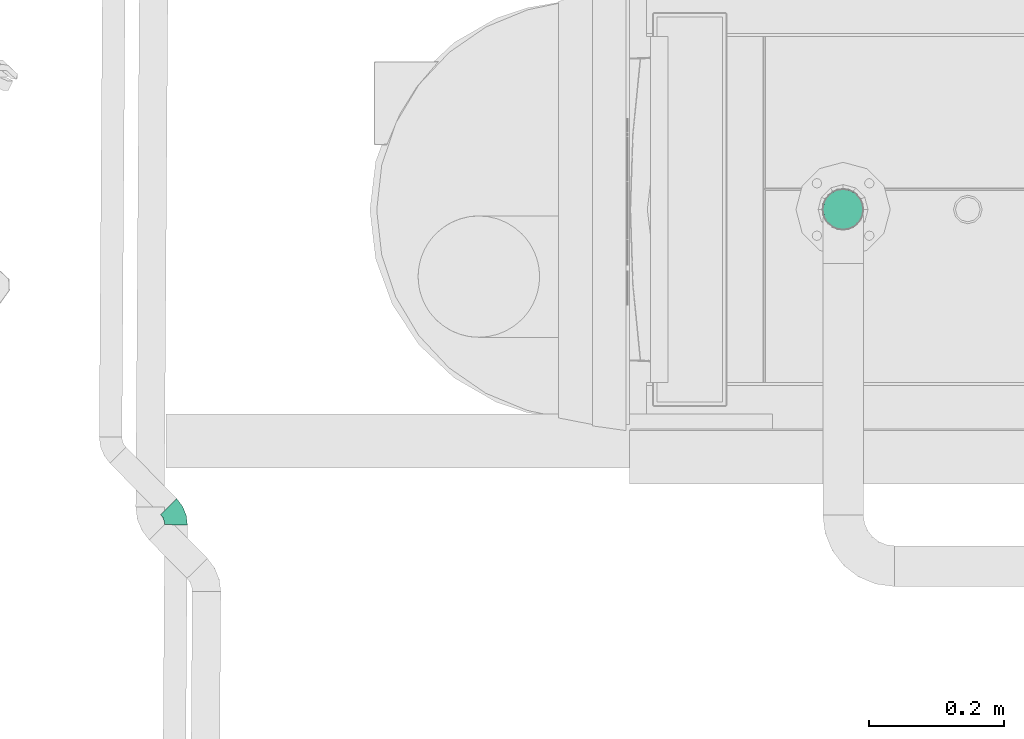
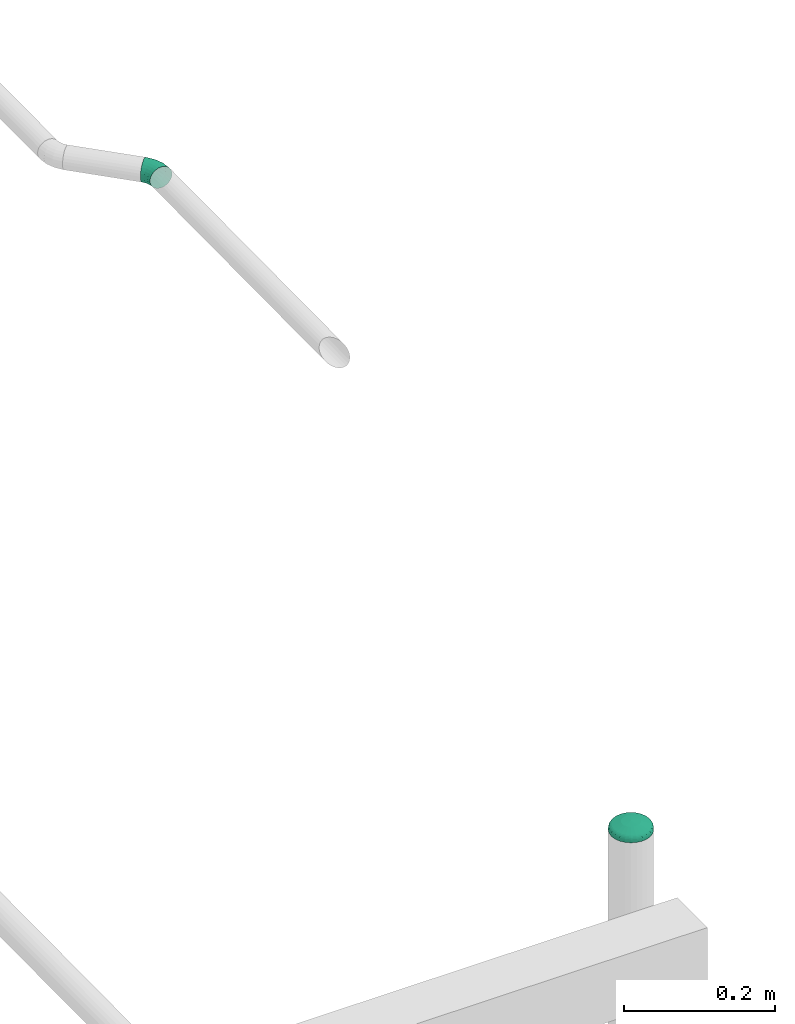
# One storey, part 353 of 374: 1 flow fitting, 1 flow segment.
"""IFC2X3 building model written with IfcOpenShell, lengths in metres."""

from ifc_helpers import new_model, si_unit, direction, origin, place, context, subcontext, project, spatial, open_shell, surface_model, source, transform, mapped, element, save


model = new_model("IFC2X3")

# Units and contexts
model_context = context("Model", 3, precision=1e-05, world=origin(), true_north=direction((-0.4480736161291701, 0.8939966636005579)))
body_context = subcontext(model_context, "Body", "Model", "MODEL_VIEW")
ifc_project = project(units=[si_unit("LENGTHUNIT", "METRE"), si_unit("AREAUNIT", "SQUARE_METRE"), si_unit("VOLUMEUNIT", "CUBIC_METRE"), si_unit("PLANEANGLEUNIT", "RADIAN"), si_unit("THERMODYNAMICTEMPERATUREUNIT", "KELVIN"), si_unit("MASSUNIT", "GRAM", prefix="KILO"), si_unit("TIMEUNIT", "SECOND")], contexts=[model_context])

# Site, building, storey
site_placement = place(None, origin())
site = spatial("IfcSite", under=ifc_project, at=site_placement, Name="Site 1", CompositionType="ELEMENT")
building_placement = place(site_placement, origin())
building = spatial("IfcBuilding", under=site, at=building_placement, Name="Undefined", CompositionType="ELEMENT")
storey_placement = place(building_placement, origin())
storey = spatial("IfcBuildingStorey", under=building, at=storey_placement, Name="Rez de chauss\x8ee", CompositionType="ELEMENT", Elevation=0.0)

# Flow fitting
shared_shape_1 = source(origin(), body_context, "Body", "SurfaceModel", [
    surface_model("IfcFaceBasedSurfaceModel", [(0.01346194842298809, 0.0, 0.0), (0.00045317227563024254, 0.00346349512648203, -4.4408921e-16), (0.0, 0.0, 0.0), (0.0004531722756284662, -0.0034620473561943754, -0.00010013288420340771), (0.0017818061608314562, -0.006686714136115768, -0.00029357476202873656), (0.0038953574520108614, -0.009454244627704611, -0.0005671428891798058), (0.0066497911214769, -0.011576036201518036, -0.0009021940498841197), (0.00985739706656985, -0.012907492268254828, -0.0012758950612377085), (0.013299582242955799, -0.013357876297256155, -0.001662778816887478), (0.016741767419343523, -0.012896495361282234, -0.002036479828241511), (0.01994937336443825, -0.01155479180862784, -0.0023715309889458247), (0.02270380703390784, -0.009424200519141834, -0.00264509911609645), (0.02481735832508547, -0.0066499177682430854, -0.0028385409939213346), (0.026145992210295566, -0.0034210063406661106, -0.002938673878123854), (0.02659916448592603, 4.248878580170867e-05, -0.002938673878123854), (0.026145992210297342, 0.0035045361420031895, -0.0028385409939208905), (0.024817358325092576, 0.006729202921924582, -0.002645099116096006), (0.022703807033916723, 0.00949673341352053, -0.0023715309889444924), (0.019949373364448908, 0.011618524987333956, -0.0020364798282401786), (0.01674176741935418, 0.012949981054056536, -0.0016627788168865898), (0.01329958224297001, 0.013400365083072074, -0.0012758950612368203), (0.009857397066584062, 0.012938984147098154, -0.0009021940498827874), (0.006649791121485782, 0.011597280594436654, -0.0005671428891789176), (0.003895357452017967, 0.009466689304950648, -0.0002935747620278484), (0.0017818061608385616, 0.006692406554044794, -0.00010013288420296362), (-0.012252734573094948, 0.006802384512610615, -0.0029386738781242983), (-0.013137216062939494, 4.2488785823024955e-05, -0.0029386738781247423), (-0.012252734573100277, -0.006714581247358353, -0.003134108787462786), (-0.009659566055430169, -0.013008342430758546, -0.0035116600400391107), (-0.0055344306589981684, -0.01840988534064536, -0.004045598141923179), (-0.00015844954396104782, -0.02255110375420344, -0.004699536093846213), (0.006102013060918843, -0.02514978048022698, -0.005428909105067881), (0.01282031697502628, -0.026028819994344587, -0.006184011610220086), (0.01953862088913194, -0.02512831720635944, -0.00691338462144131), (0.025799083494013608, -0.02250963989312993, -0.0075673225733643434), (0.031175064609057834, -0.018351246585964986, -0.008101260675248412), (0.03530020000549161, -0.012936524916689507, -0.008478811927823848), (0.03789336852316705, -0.006634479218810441, -0.008674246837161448), (0.038777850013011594, 0.00012541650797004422, -0.008674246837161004), (0.037893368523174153, 0.006882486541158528, -0.00847881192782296), (0.03530020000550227, 0.013176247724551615, -0.008101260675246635), (0.03117506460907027, 0.01857779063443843, -0.007567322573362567), (0.025799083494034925, 0.022719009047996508, -0.006913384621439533), (0.019538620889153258, 0.025317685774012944, -0.0061840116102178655), (0.012820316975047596, 0.026196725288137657, -0.005428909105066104), (0.006102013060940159, 0.02529622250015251, -0.004699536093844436), (-0.0001584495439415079, 0.022677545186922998, -0.004045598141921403), (-0.005534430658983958, 0.01851915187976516, -0.0035116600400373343), (-0.00965956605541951, 0.013104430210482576, -0.003134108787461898), (-0.013961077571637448, 0.0072437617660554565, -0.0038380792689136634), (-0.014901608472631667, 5.5492829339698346e-05, -0.0038380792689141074), (-0.013961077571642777, -0.007129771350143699, -0.004045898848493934), (-0.011203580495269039, -0.013822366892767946, -0.004447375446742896), (-0.006817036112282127, -0.019566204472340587, -0.005015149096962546), (-0.0011003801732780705, -0.023969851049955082, -0.005710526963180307), (0.005556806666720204, -0.02673320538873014, -0.006486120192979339), (0.012700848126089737, -0.027667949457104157, -0.007289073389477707), (0.01984488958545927, -0.026710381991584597, -0.008064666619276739), (0.02650207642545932, -0.023925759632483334, -0.008760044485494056), (0.03221873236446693, -0.019503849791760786, -0.009327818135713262), (0.036605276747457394, -0.01374599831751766, -0.00972929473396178), (0.03936277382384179, -0.007044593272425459, -0.009937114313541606), (0.04030330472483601, 0.0001436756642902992, -0.009937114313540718), (0.03936277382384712, 0.007328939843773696, -0.009729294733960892), (0.036605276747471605, 0.014021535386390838, -0.00932781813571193), (0.03221873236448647, 0.019765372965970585, -0.00876004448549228), (0.026502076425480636, 0.024169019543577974, -0.008064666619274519), (0.01984488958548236, 0.026932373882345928, -0.007289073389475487), (0.01270084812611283, 0.02786711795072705, -0.006486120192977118), (0.005556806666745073, 0.026909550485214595, -0.005710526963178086), (-0.0011003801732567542, 0.024124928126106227, -0.005015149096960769), (-0.006817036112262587, 0.019703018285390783, -0.004447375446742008), (-0.011203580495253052, 0.013945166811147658, -0.004045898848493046), (-0.015361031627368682, 0.007596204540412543, -0.0051938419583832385), (-0.016345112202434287, 7.509511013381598e-05, -0.0051938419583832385), (-0.015361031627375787, -0.007442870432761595, -0.005411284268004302), (-0.012475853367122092, -0.014445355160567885, -0.005831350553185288), (-0.007886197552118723, -0.020455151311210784, -0.006425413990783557), (-0.001904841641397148, -0.02506270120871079, -0.007152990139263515), (0.005060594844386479, -0.027954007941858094, -0.007964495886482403), (0.012535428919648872, -0.02893203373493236, -0.008804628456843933), (0.02001026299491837, -0.02793012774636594, -0.00961613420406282), (0.02697569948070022, -0.02501656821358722, -0.010343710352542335), (0.03295705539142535, -0.020389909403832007, -0.01093777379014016), (0.03754671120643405, -0.014365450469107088, -0.011357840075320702), (0.040431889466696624, -0.0073537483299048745, -0.011575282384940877), (0.04141597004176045, 0.00016736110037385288, -0.011575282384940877), (0.04043188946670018, 0.0076853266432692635, -0.011357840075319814), (0.03754671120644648, 0.014687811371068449, -0.010937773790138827), (0.03295705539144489, 0.020697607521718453, -0.010343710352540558), (0.026975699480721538, 0.02530515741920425, -0.0096161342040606), (0.020010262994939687, 0.028196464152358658, -0.008804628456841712), (0.012535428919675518, 0.02917448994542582, -0.007964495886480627), (0.005060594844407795, 0.02817258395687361, -0.007152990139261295), (-0.0019048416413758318, 0.025259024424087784, -0.006425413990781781), (-0.00788619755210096, 0.020632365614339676, -0.005831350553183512), (-0.01247585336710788, 0.014607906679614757, -0.0054112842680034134), (-0.016341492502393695, 0.007831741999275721, -0.0068983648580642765), (-0.017353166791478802, 9.973993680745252e-05, -0.0068983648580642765), (-0.0163414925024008, -0.007629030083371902, -0.007121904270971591), (-0.013375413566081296, -0.01482786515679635, -0.007553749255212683), (-0.008657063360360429, -0.021006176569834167, -0.008164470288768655), (-0.002507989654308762, -0.025742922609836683, -0.008912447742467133), (0.0046527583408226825, -0.028715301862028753, -0.009746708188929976), (0.01233718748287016, -0.029720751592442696, -0.010610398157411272), (0.02002161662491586, -0.028690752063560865, -0.01144465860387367), (0.027182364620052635, -0.025695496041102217, -0.012192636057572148), (0.03333143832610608, -0.020939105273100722, -0.012803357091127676), (0.038049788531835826, -0.014745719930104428, -0.013235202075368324), (0.041015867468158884, -0.007537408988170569, -0.01345874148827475), (0.04202754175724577, 0.00019459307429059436, -0.013458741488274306), (0.04101586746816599, 0.007923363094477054, -0.013235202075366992), (0.038049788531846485, 0.015122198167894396, -0.012803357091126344), (0.03333143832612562, 0.021300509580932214, -0.012192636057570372), (0.02718236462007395, 0.02603725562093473, -0.01144465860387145), (0.020021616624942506, 0.0290096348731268, -0.010610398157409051), (0.012337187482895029, 0.030015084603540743, -0.009746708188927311), (0.004652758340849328, 0.02898508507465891, -0.008912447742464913), (-0.002507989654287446, 0.025989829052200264, -0.008164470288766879), (-0.008657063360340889, 0.021233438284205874, -0.0075537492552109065), (-0.013375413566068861, 0.015040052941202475, -0.0071219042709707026), (-0.016824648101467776, 0.007931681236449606, -0.008816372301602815), (-0.01784577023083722, 0.0001274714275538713, -0.008816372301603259), (-0.016824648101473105, -0.007673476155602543, -0.009041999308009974), (-0.01383086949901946, -0.014939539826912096, -0.009477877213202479), (-0.009068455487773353, -0.02117554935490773, -0.010094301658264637), (-0.0028619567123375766, -0.02595653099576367, -0.010849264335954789), (0.004365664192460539, -0.02895666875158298, -0.011691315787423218), (0.01212185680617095, -0.029971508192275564, -0.012563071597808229), (0.019878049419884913, -0.028931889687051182, -0.013405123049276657), (0.027105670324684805, -0.025908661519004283, -0.014160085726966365), (0.033312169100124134, -0.021107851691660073, -0.014776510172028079), (0.03807458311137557, -0.01485662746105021, -0.01521238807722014), (0.0410683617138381, -0.007580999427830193, -0.015438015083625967), (0.042089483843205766, 0.00022321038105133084, -0.015438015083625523), (0.0410683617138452, 0.008024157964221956, -0.015212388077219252), (0.03807458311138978, 0.015290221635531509, -0.014776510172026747), (0.0333121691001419, 0.021526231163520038, -0.014160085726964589), (0.02710567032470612, 0.026307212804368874, -0.013405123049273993), (0.019878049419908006, 0.029307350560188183, -0.012563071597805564), (0.012121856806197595, 0.030322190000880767, -0.011691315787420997), (0.0043656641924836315, 0.02928257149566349, -0.010849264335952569), (-0.002861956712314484, 0.026259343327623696, -0.01009430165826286), (-0.009068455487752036, 0.021458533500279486, -0.009477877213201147), (-0.013830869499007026, 0.015207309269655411, -0.009041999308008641), (-0.017209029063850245, 0.007981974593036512, -0.012294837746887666), (-0.01823015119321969, 0.000177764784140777, -0.012294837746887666), (-0.017209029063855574, -0.0076231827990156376, -0.012520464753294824), (-0.01421525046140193, -0.01488924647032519, -0.01295634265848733), (-0.009452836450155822, -0.021125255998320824, -0.013572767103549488), (-0.0032463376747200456, -0.025906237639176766, -0.01432772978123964), (0.00398128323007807, -0.028906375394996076, -0.015169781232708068), (0.01173747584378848, -0.02992121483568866, -0.01604153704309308), (0.019493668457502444, -0.028881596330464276, -0.016883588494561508), (0.026721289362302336, -0.025858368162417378, -0.017638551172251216), (0.032927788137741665, -0.021057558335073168, -0.01825497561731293), (0.0376902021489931, -0.014806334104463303, -0.018690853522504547), (0.04068398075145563, -0.007530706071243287, -0.018916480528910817), (0.0417051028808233, 0.00027350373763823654, -0.018916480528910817), (0.040683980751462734, 0.008074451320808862, -0.01869085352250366), (0.03769020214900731, 0.015340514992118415, -0.018254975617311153), (0.03292778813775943, 0.021576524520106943, -0.017638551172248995), (0.026721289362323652, 0.02635750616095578, -0.016883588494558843), (0.019493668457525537, 0.02935764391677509, -0.016041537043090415), (0.011737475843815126, 0.030372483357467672, -0.015169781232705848), (0.0039812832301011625, 0.029332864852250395, -0.014327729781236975), (-0.003246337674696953, 0.026309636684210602, -0.013572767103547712), (-0.009452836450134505, 0.021508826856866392, -0.012956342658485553), (-0.014215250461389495, 0.015257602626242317, -0.012520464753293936)], [open_shell([[[0, 1, 2]], [[0, 2, 3]], [[0, 3, 4]], [[0, 4, 5]], [[0, 5, 6]], [[0, 6, 7]], [[0, 7, 8]], [[0, 8, 9]], [[0, 9, 10]], [[0, 10, 11]], [[0, 11, 12]], [[0, 12, 13]], [[0, 13, 14]], [[0, 14, 15]], [[0, 15, 16]], [[0, 16, 17]], [[0, 17, 18]], [[0, 18, 19]], [[0, 19, 20]], [[0, 20, 21]], [[0, 21, 22]], [[0, 22, 23]], [[0, 23, 24]], [[0, 24, 1]], [[1, 25, 26, 2]], [[2, 26, 27, 3]], [[3, 27, 28, 4]], [[4, 28, 29, 5]], [[5, 29, 30, 6]], [[6, 30, 31, 7]], [[7, 31, 32, 8]], [[8, 32, 33, 9]], [[9, 33, 34, 10]], [[10, 34, 35, 11]], [[11, 35, 36, 12]], [[12, 36, 37, 13]], [[13, 37, 38, 14]], [[14, 38, 39, 15]], [[15, 39, 40, 16]], [[16, 40, 41, 17]], [[17, 41, 42, 18]], [[18, 42, 43, 19]], [[19, 43, 44, 20]], [[20, 44, 45, 21]], [[21, 45, 46, 22]], [[22, 46, 47, 23]], [[23, 47, 48, 24]], [[24, 48, 25, 1]], [[25, 49, 50, 26]], [[26, 50, 51, 27]], [[27, 51, 52, 28]], [[28, 52, 53, 29]], [[29, 53, 54, 30]], [[30, 54, 55, 31]], [[31, 55, 56, 32]], [[32, 56, 57, 33]], [[33, 57, 58, 34]], [[34, 58, 59, 35]], [[35, 59, 60, 36]], [[36, 60, 61, 37]], [[37, 61, 62, 38]], [[38, 62, 63, 39]], [[39, 63, 64, 40]], [[40, 64, 65, 41]], [[41, 65, 66, 42]], [[42, 66, 67, 43]], [[43, 67, 68, 44]], [[44, 68, 69, 45]], [[45, 69, 70, 46]], [[46, 70, 71, 47]], [[47, 71, 72, 48]], [[48, 72, 49, 25]], [[49, 73, 74, 50]], [[50, 74, 75, 51]], [[51, 75, 76, 52]], [[52, 76, 77, 53]], [[53, 77, 78, 54]], [[54, 78, 79, 55]], [[55, 79, 80, 56]], [[56, 80, 81, 57]], [[57, 81, 82, 58]], [[58, 82, 83, 59]], [[59, 83, 84, 60]], [[60, 84, 85, 61]], [[61, 85, 86, 62]], [[62, 86, 87, 63]], [[63, 87, 88, 64]], [[64, 88, 89, 65]], [[65, 89, 90, 66]], [[66, 90, 91, 67]], [[67, 91, 92, 68]], [[68, 92, 93, 69]], [[69, 93, 94, 70]], [[70, 94, 95, 71]], [[71, 95, 96, 72]], [[72, 96, 73, 49]], [[73, 97, 98, 74]], [[74, 98, 99, 75]], [[75, 99, 100, 76]], [[76, 100, 101, 77]], [[77, 101, 102, 78]], [[78, 102, 103, 79]], [[79, 103, 104, 80]], [[80, 104, 105, 81]], [[81, 105, 106, 82]], [[82, 106, 107, 83]], [[83, 107, 108, 84]], [[84, 108, 109, 85]], [[85, 109, 110, 86]], [[86, 110, 111, 87]], [[87, 111, 112, 88]], [[88, 112, 113, 89]], [[89, 113, 114, 90]], [[90, 114, 115, 91]], [[91, 115, 116, 92]], [[92, 116, 117, 93]], [[93, 117, 118, 94]], [[94, 118, 119, 95]], [[95, 119, 120, 96]], [[96, 120, 97, 73]], [[97, 121, 122, 98]], [[98, 122, 123, 99]], [[99, 123, 124, 100]], [[100, 124, 125, 101]], [[101, 125, 126, 102]], [[102, 126, 127, 103]], [[103, 127, 128, 104]], [[104, 128, 129, 105]], [[105, 129, 130, 106]], [[106, 130, 131, 107]], [[107, 131, 132, 108]], [[108, 132, 133, 109]], [[109, 133, 134, 110]], [[110, 134, 135, 111]], [[111, 135, 136, 112]], [[112, 136, 137, 113]], [[113, 137, 138, 114]], [[114, 138, 139, 115]], [[115, 139, 140, 116]], [[116, 140, 141, 117]], [[117, 141, 142, 118]], [[118, 142, 143, 119]], [[119, 143, 144, 120]], [[120, 144, 121, 97]], [[121, 145, 146, 122]], [[122, 146, 147, 123]], [[123, 147, 148, 124]], [[124, 148, 149, 125]], [[125, 149, 150, 126]], [[126, 150, 151, 127]], [[127, 151, 152, 128]], [[128, 152, 153, 129]], [[129, 153, 154, 130]], [[130, 154, 155, 131]], [[131, 155, 156, 132]], [[132, 156, 157, 133]], [[133, 157, 158, 134]], [[134, 158, 159, 135]], [[135, 159, 160, 136]], [[136, 160, 161, 137]], [[137, 161, 162, 138]], [[138, 162, 163, 139]], [[139, 163, 164, 140]], [[140, 164, 165, 141]], [[141, 165, 166, 142]], [[142, 166, 167, 143]], [[143, 167, 168, 144]], [[144, 168, 145, 121]]])]),
])
flow_fitting_placement = place(storey_placement, origin())
element("IfcFlowFitting", 1, at=flow_fitting_placement, inside=storey, Name="Fond/couvercle", ObjectType="Fond/couvercle", context=body_context, shape_type="MappedRepresentation", body=[
    mapped(shared_shape_1, transform((53.91363637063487, 13.069137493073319, 2.402223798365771), x_axis=(0.2572534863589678, -0.9600830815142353, 0.10982313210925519), y_axis=(0.966235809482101, 0.25725838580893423, -0.014369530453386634), z_axis=(-0.014456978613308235, 0.10981165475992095, 0.9938472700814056))),
])

# Flow segment
shared_shape_2 = source(origin(), body_context, "Body", "SurfaceModel", [
    surface_model("IfcFaceBasedSurfaceModel", [(0.014318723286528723, 0.0, 8.8817842e-16), (0.01424378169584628, 0.004398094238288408, 0.0), (7.494159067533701e-05, 0.004398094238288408, 8.8817842e-16), (0.0, 0.0, 0.0), (-0.013611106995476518, 0.004872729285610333, -0.0036363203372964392), (-0.01383082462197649, 0.000479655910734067, -0.003674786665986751), (-0.02588168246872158, 0.005789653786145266, -0.010661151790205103), (-0.026231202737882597, 0.0014062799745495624, -0.010773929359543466), (0.01402406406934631, 0.008643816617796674, -0.00112889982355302), (0.0002946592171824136, 0.00864381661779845, -0.001128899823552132), (-0.01296692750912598, 0.009103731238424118, -0.00465244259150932), (-0.02485694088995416, 0.009992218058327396, -0.011459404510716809), (0.013674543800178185, 0.012447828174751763, -0.0033097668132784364), (0.0006441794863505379, 0.012447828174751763, -0.003309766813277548), (-0.011942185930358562, 0.012884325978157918, -0.006653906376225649), (-0.023226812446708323, 0.013727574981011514, -0.01311428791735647), (0.013219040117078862, 0.01555089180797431, -0.006393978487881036), (0.0010996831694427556, 0.015550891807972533, -0.006393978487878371), (-0.010606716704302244, 0.015956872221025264, -0.009504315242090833), (-0.021102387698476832, 0.016741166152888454, -0.01551302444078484), (0.012688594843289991, 0.01774153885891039, -0.010171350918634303), (0.0016301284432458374, 0.01774153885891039, -0.010171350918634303), (-0.009051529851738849, 0.018111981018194, -0.013009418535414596), (-0.01862844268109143, 0.01882762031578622, -0.018492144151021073), (0.012119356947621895, 0.018870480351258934, -0.014384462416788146), (0.0021993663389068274, 0.018870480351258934, -0.014384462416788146), (-0.007382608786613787, 0.019202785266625, -0.016930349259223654), (-0.015973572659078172, 0.019844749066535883, -0.021848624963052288), (0.0115501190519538, 0.018860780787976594, -0.01874619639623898), (0.002768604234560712, 0.018860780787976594, -0.01874619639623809), (-0.005713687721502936, 0.019154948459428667, -0.020999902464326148), (-0.013318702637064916, 0.01972323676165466, -0.025353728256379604), (0.011019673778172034, 0.01771310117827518, -0.022959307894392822), (0.0032990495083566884, 0.01771310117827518, -0.022959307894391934), (-0.004158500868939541, 0.017971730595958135, -0.0249407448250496), (-0.010844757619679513, 0.018471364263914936, -0.028768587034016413), (0.010564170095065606, 0.015505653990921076, -0.02673668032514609), (0.0037545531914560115, 0.015505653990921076, -0.0267366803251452), (-0.002823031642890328, 0.01573376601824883, -0.028484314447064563), (-0.008720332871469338, 0.016174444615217, -0.03186048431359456), (0.010214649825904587, 0.012388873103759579, -0.029820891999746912), (0.004104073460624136, 0.012388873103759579, -0.029820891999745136), (-0.0017982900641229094, 0.012593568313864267, -0.03138912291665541), (-0.007090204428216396, 0.012989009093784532, -0.03441871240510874), (0.009994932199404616, 0.008575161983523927, -0.03200175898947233), (0.004323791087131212, 0.00857516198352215, -0.03200175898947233), (-0.001154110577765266, 0.00876513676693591, -0.03345721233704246), (-0.006065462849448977, 0.009132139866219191, -0.03626893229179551), (0.009919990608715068, 0.004324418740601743, -0.03313065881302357), (0.004398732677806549, 0.004324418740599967, -0.03313065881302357), (-0.0009343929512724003, 0.004509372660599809, -0.03454764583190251), (-0.005715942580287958, 0.004866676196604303, -0.03728505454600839), (0.009994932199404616, -7.367549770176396e-05, -0.033130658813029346), (0.0043237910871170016, -7.367549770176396e-05, -0.03313065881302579), (-0.0011541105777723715, 0.00011629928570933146, -0.03458611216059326), (-0.0060654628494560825, 0.00048330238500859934, -0.03739783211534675), (0.010214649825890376, -0.004319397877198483, -0.03200175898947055), (0.00410407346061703, -0.0043193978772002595, -0.03200175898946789), (-0.0017982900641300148, -0.004114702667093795, -0.03356998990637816), (-0.007090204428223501, -0.0037192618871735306, -0.036599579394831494), (0.0105641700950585, -0.008123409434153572, -0.029820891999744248), (0.003754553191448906, -0.008123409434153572, -0.02982089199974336), (-0.0028230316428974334, -0.007895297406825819, -0.03156852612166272), (-0.008720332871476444, -0.007454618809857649, -0.03494469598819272), (0.011019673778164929, -0.011226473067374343, -0.026736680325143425), (0.003299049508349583, -0.011226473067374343, -0.026736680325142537), (-0.004158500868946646, -0.010967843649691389, -0.028718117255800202), (-0.010844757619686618, -0.010468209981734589, -0.032545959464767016), (0.011550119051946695, -0.013417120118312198, -0.02295930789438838), (0.0027686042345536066, -0.013417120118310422, -0.022959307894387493), (-0.005713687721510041, -0.013122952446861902, -0.02521301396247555), (-0.013318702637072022, -0.012554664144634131, -0.029566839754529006), (0.01211935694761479, -0.014546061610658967, -0.018746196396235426), (0.002199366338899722, -0.014546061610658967, -0.018746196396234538), (-0.007382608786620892, -0.0142137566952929, -0.021292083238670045), (-0.015973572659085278, -0.013571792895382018, -0.02621035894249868), (0.012688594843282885, -0.014536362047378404, -0.014384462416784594), (0.001630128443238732, -0.014536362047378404, -0.014384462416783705), (-0.009051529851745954, -0.014165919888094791, -0.017222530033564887), (-0.018628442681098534, -0.013450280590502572, -0.022705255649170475), (0.013219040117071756, -0.013388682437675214, -0.010171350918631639), (0.0010996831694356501, -0.01338868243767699, -0.010171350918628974), (-0.010606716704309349, -0.01298270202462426, -0.013281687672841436), (-0.021102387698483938, -0.01219840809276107, -0.019290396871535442), (0.01367454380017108, -0.011181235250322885, -0.006393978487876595), (0.0006441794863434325, -0.011181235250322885, -0.006393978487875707), (-0.011942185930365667, -0.01074473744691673, -0.009738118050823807), (-0.023226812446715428, -0.009901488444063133, -0.01619849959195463), (0.014024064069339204, -0.008064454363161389, -0.003309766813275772), (0.0002946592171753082, -0.008064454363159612, -0.0033097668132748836), (-0.012966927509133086, -0.0076045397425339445, -0.006833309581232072), (-0.024856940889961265, -0.0067160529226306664, -0.01364027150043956), (0.014243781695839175, -0.004250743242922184, -0.0011288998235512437), (7.494159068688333e-05, -0.004250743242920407, -0.0011288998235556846), (-0.013611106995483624, -0.0037761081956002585, -0.004765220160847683), (-0.025881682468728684, -0.002859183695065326, -0.011790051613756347), (7.494159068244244e-05, -0.004250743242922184, -0.0011288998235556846)], [open_shell([[[0, 1, 2, 3]], [[3, 2, 4, 5]], [[5, 4, 6, 7]], [[1, 8, 9, 2]], [[2, 9, 10, 4]], [[4, 10, 11, 6]], [[8, 12, 13, 9]], [[9, 13, 14, 10]], [[10, 14, 15, 11]], [[12, 16, 17, 13]], [[13, 17, 18, 14]], [[14, 18, 19, 15]], [[16, 20, 21, 17]], [[17, 21, 22, 18]], [[18, 22, 23, 19]], [[20, 24, 25, 21]], [[21, 25, 26, 22]], [[22, 26, 27, 23]], [[24, 28, 29, 25]], [[25, 29, 30, 26]], [[26, 30, 31, 27]], [[28, 32, 33, 29]], [[29, 33, 34, 30]], [[30, 34, 35, 31]], [[32, 36, 37, 33]], [[33, 37, 38, 34]], [[34, 38, 39, 35]], [[36, 40, 41, 37]], [[37, 41, 42, 38]], [[38, 42, 43, 39]], [[40, 44, 45, 41]], [[41, 45, 46, 42]], [[42, 46, 47, 43]], [[44, 48, 49, 45]], [[45, 49, 50, 46]], [[46, 50, 51, 47]], [[48, 52, 53, 49]], [[49, 53, 54, 50]], [[50, 54, 55, 51]], [[52, 56, 57, 53]], [[53, 57, 58, 54]], [[54, 58, 59, 55]], [[56, 60, 61, 57]], [[57, 61, 62, 58]], [[58, 62, 63, 59]], [[60, 64, 65, 61]], [[61, 65, 66, 62]], [[62, 66, 67, 63]], [[64, 68, 69, 65]], [[65, 69, 70, 66]], [[66, 70, 71, 67]], [[68, 72, 73, 69]], [[69, 73, 74, 70]], [[70, 74, 75, 71]], [[72, 76, 77, 73]], [[73, 77, 78, 74]], [[74, 78, 79, 75]], [[76, 80, 81, 77]], [[77, 81, 82, 78]], [[78, 82, 83, 79]], [[80, 84, 85, 81]], [[81, 85, 86, 82]], [[82, 86, 87, 83]], [[84, 88, 89, 85]], [[85, 89, 90, 86]], [[86, 90, 91, 87]], [[88, 92, 93, 89]], [[89, 93, 94, 90]], [[90, 94, 95, 91]], [[92, 0, 3, 93]], [[96, 3, 5, 94]], [[94, 5, 7, 95]]])]),
])
flow_segment_placement = place(storey_placement, origin())
element("IfcFlowSegment", 2, at=flow_segment_placement, inside=storey, Name="Tube coudé", ObjectType="Tube coudé", context=body_context, shape_type="MappedRepresentation", body=[
    mapped(shared_shape_2, transform((52.937134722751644, 12.615845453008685, 4.074309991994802), x_axis=(-0.6032079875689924, 0.7975839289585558, 0.0), y_axis=(-0.10322993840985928, -0.07807218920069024, 0.9915887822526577), z_axis=(0.7908752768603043, 0.5981342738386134, 0.12942830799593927))),
])

save(model, "model.ifc")
